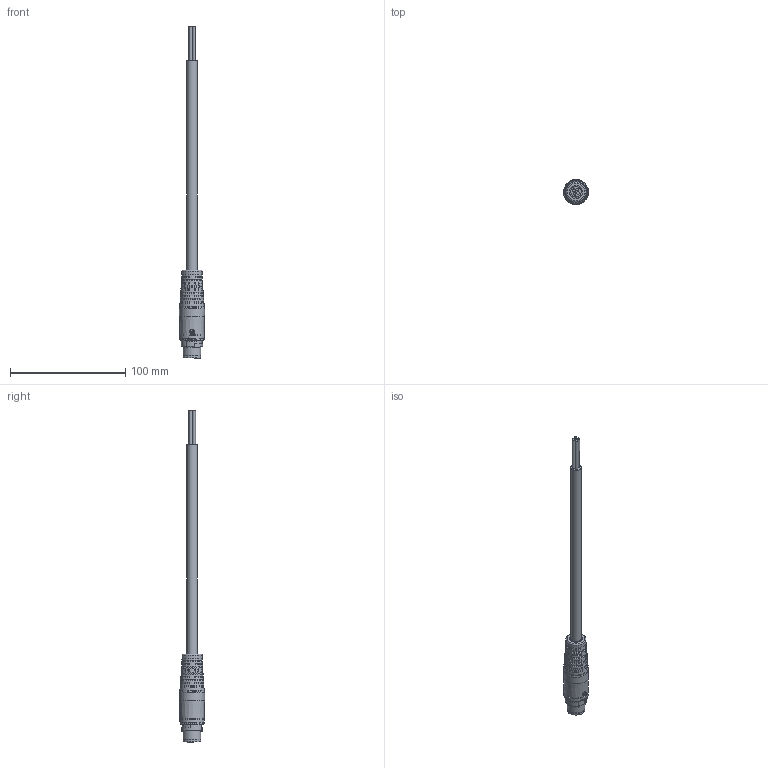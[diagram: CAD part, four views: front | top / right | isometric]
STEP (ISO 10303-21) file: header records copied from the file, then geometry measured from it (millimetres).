
FILE_DESCRIPTION (( 'STEP AP203' ), '1' );
FILE_NAME ('1138009_W-TEC_15K_GLATT_BU_STEP.STEP', '2023-09-01T06:20:55', ( '' ), ( '' ), 'SwSTEP 2.0', 'SolidWorks 2021', '' );
FILE_SCHEMA (( 'CONFIG_CONTROL_DESIGN' ));
Length unit declared in the file: millimetre
Products named in the file (1): 1138009_W-TEC_15K_GLATT_BU_STEP
Bounding box: 21.7 x 21.82 x 287.67 mm (x, y, z)
Surface area: 12946.1 mm2 (no closed solid volume)
Topology: 0 solids, 11 shells, 488 faces, 1715 edges, 1135 vertices
Faces by surface type: bspline 173, plane 139, cylinder 130, cone 26, torus 16, sphere 4
Full cylindrical faces by diameter (mm): 1.6 x3, 2.5 x3, 4 x1, 4.4 x3, 9.1 x1, 11.1 x1, 15.2 x1, 15.4 x1, 17.384 x1, 21.24 x1, 21.72 x1
Entity records: 25103 total; most frequent: CARTESIAN_POINT 13159, ORIENTED_EDGE 2662, DIRECTION 1814, EDGE_CURVE 1610, VERTEX_POINT 1111, B_SPLINE_CURVE_WITH_KNOTS 713, AXIS2_PLACEMENT_3D 658, EDGE_LOOP 559
